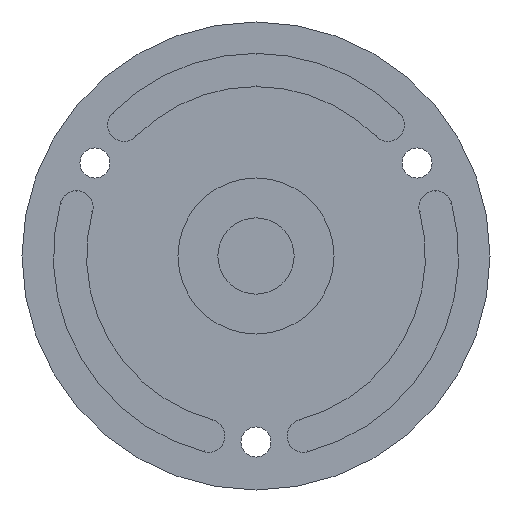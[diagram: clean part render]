
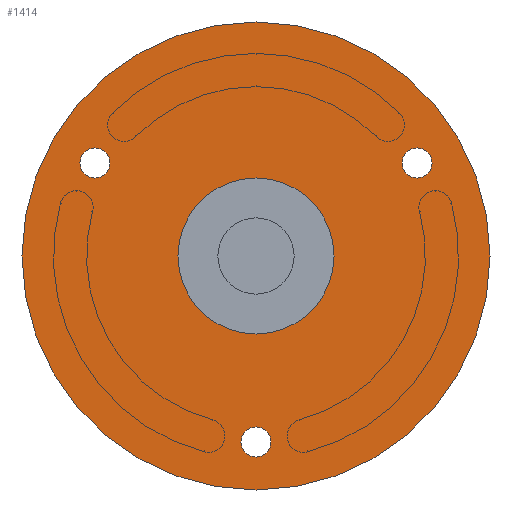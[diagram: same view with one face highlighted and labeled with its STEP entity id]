
A CAD part, front view. The second image highlights one B-rep face of the part: STEP entity #1414.
In plain terms, the highlighted planar face has unit normal (0, -1, 0).
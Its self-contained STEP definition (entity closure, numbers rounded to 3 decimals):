
#37 = DIRECTION ( 'NONE',  ( 0., 0., -1. ) ) ;
#45 = CARTESIAN_POINT ( 'NONE',  ( 0., 168., -33.5 ) ) ;
#55 = CARTESIAN_POINT ( 'NONE',  ( 26.847, 168., 15.5 ) ) ;
#57 = VERTEX_POINT ( 'NONE', #3994 ) ;
#64 = EDGE_LOOP ( 'NONE', ( #3528, #1189 ) ) ;
#207 = EDGE_CURVE ( 'NONE', #1228, #2163, #2453, .T. ) ;
#213 = ORIENTED_EDGE ( 'NONE', *, *, #3124, .F. ) ;
#325 = CARTESIAN_POINT ( 'NONE',  ( -26.847, 168., 15.5 ) ) ;
#365 = EDGE_CURVE ( 'NONE', #1368, #4582, #4458, .T. ) ;
#405 = ORIENTED_EDGE ( 'NONE', *, *, #1125, .F. ) ;
#404 = CARTESIAN_POINT ( 'NONE',  ( 0., 168., 0. ) ) ;
#467 = EDGE_CURVE ( 'NONE', #57, #4581, #2681, .T. ) ;
#512 = EDGE_LOOP ( 'NONE', ( #213, #3667 ) ) ;
#587 = EDGE_CURVE ( 'NONE', #4581, #57, #1239, .T. ) ;
#689 = EDGE_LOOP ( 'NONE', ( #1361, #405 ) ) ;
#715 = DIRECTION ( 'NONE',  ( 0., -1., 0. ) ) ;
#721 = CARTESIAN_POINT ( 'NONE',  ( 26.847, 168., 13. ) ) ;
#895 = DIRECTION ( 'NONE',  ( 0., -1., 0. ) ) ;
#911 = DIRECTION ( 'NONE',  ( 0., 0., -1. ) ) ;
#917 = DIRECTION ( 'NONE',  ( 0., -1., 0. ) ) ;
#926 = AXIS2_PLACEMENT_3D ( 'NONE', #1045, #2105, #1433 ) ;
#960 = ORIENTED_EDGE ( 'NONE', *, *, #365, .F. ) ;
#1045 = CARTESIAN_POINT ( 'NONE',  ( 0., 168., 0. ) ) ;
#1076 = VERTEX_POINT ( 'NONE', #721 ) ;
#1125 = EDGE_CURVE ( 'NONE', #3453, #1594, #4273, .T. ) ;
#1189 = ORIENTED_EDGE ( 'NONE', *, *, #3498, .F. ) ;
#1228 = VERTEX_POINT ( 'NONE', #4473 ) ;
#1229 = FACE_OUTER_BOUND ( 'NONE', #3541, .T. ) ;
#1239 = CIRCLE ( 'NONE', #3317, 39. ) ;
#1361 = ORIENTED_EDGE ( 'NONE', *, *, #2481, .F. ) ;
#1368 = VERTEX_POINT ( 'NONE', #1603 ) ;
#1396 = AXIS2_PLACEMENT_3D ( 'NONE', #404, #2947, #3676 ) ;
#1414 = ADVANCED_FACE ( 'NONE', ( #3887, #1575, #3577, #1229, #3067 ), #4558, .T. ) ;
#1433 = DIRECTION ( 'NONE',  ( 0., 0., -1. ) ) ;
#1483 = DIRECTION ( 'NONE',  ( 0., 0., -1. ) ) ;
#1488 = CARTESIAN_POINT ( 'NONE',  ( 26.847, 168., 18. ) ) ;
#1575 = FACE_BOUND ( 'NONE', #512, .T. ) ;
#1587 = CARTESIAN_POINT ( 'NONE',  ( 0., 168., 13. ) ) ;
#1594 = VERTEX_POINT ( 'NONE', #4728 ) ;
#1603 = CARTESIAN_POINT ( 'NONE',  ( 0., 168., -28.5 ) ) ;
#1735 = EDGE_CURVE ( 'NONE', #4582, #1368, #3756, .T. ) ;
#1907 = DIRECTION ( 'NONE',  ( 0., -1., 0. ) ) ;
#2059 = AXIS2_PLACEMENT_3D ( 'NONE', #2403, #2060, #4269 ) ;
#2060 = DIRECTION ( 'NONE',  ( 0., -1., 0. ) ) ;
#2089 = AXIS2_PLACEMENT_3D ( 'NONE', #4102, #1907, #37 ) ;
#2105 = DIRECTION ( 'NONE',  ( 0., -1., 0. ) ) ;
#2163 = VERTEX_POINT ( 'NONE', #1587 ) ;
#2226 = DIRECTION ( 'NONE',  ( 0., -1., 0. ) ) ;
#2245 = CARTESIAN_POINT ( 'NONE',  ( 0., 168., 0. ) ) ;
#2403 = CARTESIAN_POINT ( 'NONE',  ( 0., 168., -31. ) ) ;
#2453 = CIRCLE ( 'NONE', #3883, 13. ) ;
#2476 = AXIS2_PLACEMENT_3D ( 'NONE', #4421, #4355, #2528 ) ;
#2481 = EDGE_CURVE ( 'NONE', #1594, #3453, #4097, .T. ) ;
#2528 = DIRECTION ( 'NONE',  ( 0., 0., -1. ) ) ;
#2639 = VERTEX_POINT ( 'NONE', #1488 ) ;
#2681 = CIRCLE ( 'NONE', #926, 39. ) ;
#2929 = DIRECTION ( 'NONE',  ( 0., -1., 0. ) ) ;
#2945 = CARTESIAN_POINT ( 'NONE',  ( 0., 168., -39. ) ) ;
#2947 = DIRECTION ( 'NONE',  ( 0., -1., 0. ) ) ;
#2993 = DIRECTION ( 'NONE',  ( 0., -1., 0. ) ) ;
#3035 = AXIS2_PLACEMENT_3D ( 'NONE', #55, #2993, #3373 ) ;
#3067 = FACE_BOUND ( 'NONE', #64, .T. ) ;
#3124 = EDGE_CURVE ( 'NONE', #2639, #1076, #3277, .T. ) ;
#3139 = EDGE_LOOP ( 'NONE', ( #960, #4344 ) ) ;
#3277 = CIRCLE ( 'NONE', #2476, 2.5 ) ;
#3297 = DIRECTION ( 'NONE',  ( 0., 0., -1. ) ) ;
#3317 = AXIS2_PLACEMENT_3D ( 'NONE', #2245, #2226, #1483 ) ;
#3330 = CARTESIAN_POINT ( 'NONE',  ( 0., 168., 0. ) ) ;
#3365 = CARTESIAN_POINT ( 'NONE',  ( -26.847, 168., 15.5 ) ) ;
#3373 = DIRECTION ( 'NONE',  ( 0., 0., -1. ) ) ;
#3453 = VERTEX_POINT ( 'NONE', #4316 ) ;
#3498 = EDGE_CURVE ( 'NONE', #2163, #1228, #4549, .T. ) ;
#3522 = CARTESIAN_POINT ( 'NONE',  ( 39., 168., 0. ) ) ;
#3528 = ORIENTED_EDGE ( 'NONE', *, *, #207, .F. ) ;
#3541 = EDGE_LOOP ( 'NONE', ( #3792, #3843 ) ) ;
#3577 = FACE_BOUND ( 'NONE', #689, .T. ) ;
#3667 = ORIENTED_EDGE ( 'NONE', *, *, #4116, .F. ) ;
#3676 = DIRECTION ( 'NONE',  ( 0., 0., -1. ) ) ;
#3756 = CIRCLE ( 'NONE', #2089, 2.5 ) ;
#3792 = ORIENTED_EDGE ( 'NONE', *, *, #587, .T. ) ;
#3819 = AXIS2_PLACEMENT_3D ( 'NONE', #3522, #917, #4576 ) ;
#3843 = ORIENTED_EDGE ( 'NONE', *, *, #467, .T. ) ;
#3883 = AXIS2_PLACEMENT_3D ( 'NONE', #3330, #895, #911 ) ;
#3887 = FACE_BOUND ( 'NONE', #3139, .T. ) ;
#3994 = CARTESIAN_POINT ( 'NONE',  ( 0., 168., 39. ) ) ;
#4097 = CIRCLE ( 'NONE', #4191, 2.5 ) ;
#4102 = CARTESIAN_POINT ( 'NONE',  ( 0., 168., -31. ) ) ;
#4116 = EDGE_CURVE ( 'NONE', #1076, #2639, #4430, .T. ) ;
#4191 = AXIS2_PLACEMENT_3D ( 'NONE', #325, #715, #4701 ) ;
#4269 = DIRECTION ( 'NONE',  ( 0., 0., -1. ) ) ;
#4273 = CIRCLE ( 'NONE', #4595, 2.5 ) ;
#4316 = CARTESIAN_POINT ( 'NONE',  ( -26.847, 168., 13. ) ) ;
#4344 = ORIENTED_EDGE ( 'NONE', *, *, #1735, .F. ) ;
#4355 = DIRECTION ( 'NONE',  ( 0., -1., 0. ) ) ;
#4421 = CARTESIAN_POINT ( 'NONE',  ( 26.847, 168., 15.5 ) ) ;
#4430 = CIRCLE ( 'NONE', #3035, 2.5 ) ;
#4458 = CIRCLE ( 'NONE', #2059, 2.5 ) ;
#4473 = CARTESIAN_POINT ( 'NONE',  ( 0., 168., -13. ) ) ;
#4549 = CIRCLE ( 'NONE', #1396, 13. ) ;
#4558 = PLANE ( 'NONE',  #3819 ) ;
#4576 = DIRECTION ( 'NONE',  ( 0., 0., -1. ) ) ;
#4581 = VERTEX_POINT ( 'NONE', #2945 ) ;
#4582 = VERTEX_POINT ( 'NONE', #45 ) ;
#4595 = AXIS2_PLACEMENT_3D ( 'NONE', #3365, #2929, #3297 ) ;
#4701 = DIRECTION ( 'NONE',  ( 0., 0., -1. ) ) ;
#4728 = CARTESIAN_POINT ( 'NONE',  ( -26.847, 168., 18. ) ) ;
